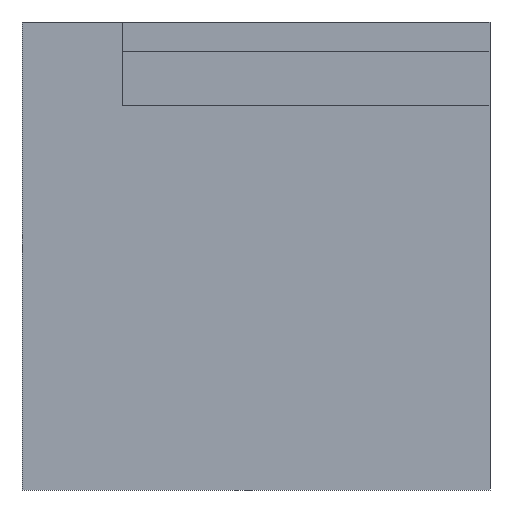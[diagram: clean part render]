
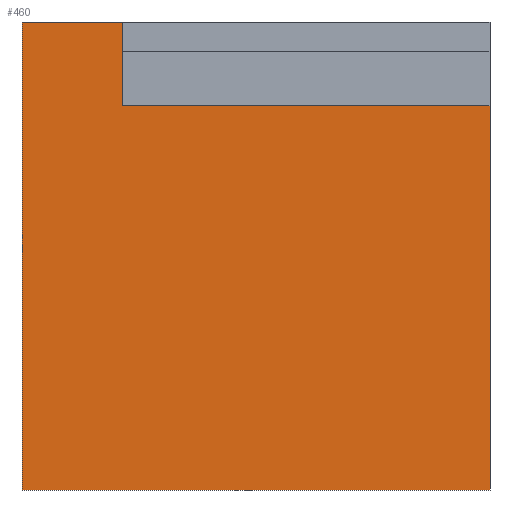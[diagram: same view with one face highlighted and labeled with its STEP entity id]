
A CAD part, front view. The second image highlights one B-rep face of the part: STEP entity #460.
In plain terms, the highlighted planar face has unit normal (0, -1, 0).
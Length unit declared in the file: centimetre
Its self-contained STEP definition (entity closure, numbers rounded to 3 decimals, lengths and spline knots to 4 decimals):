
#2 = VECTOR ( 'NONE', #405, 100. ) ;
#6 = CARTESIAN_POINT ( 'NONE',  ( 0., 0., 1000. ) ) ;
#9 = VERTEX_POINT ( 'NONE', #219 ) ;
#13 = DIRECTION ( 'NONE',  ( 0., 0., -1. ) ) ;
#16 = DIRECTION ( 'NONE',  ( 0., 0., -1. ) ) ;
#35 = CARTESIAN_POINT ( 'NONE',  ( 0., 0., 1000. ) ) ;
#59 = CARTESIAN_POINT ( 'NONE',  ( 213.6796, 0., 821.1203 ) ) ;
#67 = DIRECTION ( 'NONE',  ( 0., 1., 0. ) ) ;
#72 = LINE ( 'NONE', #144, #469 ) ;
#76 = EDGE_CURVE ( 'NONE', #176, #355, #72, .T. ) ;
#95 = CARTESIAN_POINT ( 'NONE',  ( 213.6796, 0., 1000. ) ) ;
#97 = CARTESIAN_POINT ( 'NONE',  ( 1000., 0., 1000. ) ) ;
#101 = ORIENTED_EDGE ( 'NONE', *, *, #209, .F. ) ;
#110 = DIRECTION ( 'NONE',  ( 0., 0., 1. ) ) ;
#142 = LINE ( 'NONE', #294, #274 ) ;
#144 = CARTESIAN_POINT ( 'NONE',  ( 0., 0., 1000. ) ) ;
#152 = VECTOR ( 'NONE', #16, 100. ) ;
#173 = CARTESIAN_POINT ( 'NONE',  ( 0., 0., 1000. ) ) ;
#175 = DIRECTION ( 'NONE',  ( 1., 0., 0. ) ) ;
#176 = VERTEX_POINT ( 'NONE', #6 ) ;
#187 = ORIENTED_EDGE ( 'NONE', *, *, #404, .T. ) ;
#189 = DIRECTION ( 'NONE',  ( 1., 0., 0. ) ) ;
#191 = VERTEX_POINT ( 'NONE', #290 ) ;
#208 = VERTEX_POINT ( 'NONE', #401 ) ;
#209 = EDGE_CURVE ( 'NONE', #208, #191, #435, .T. ) ;
#212 = CARTESIAN_POINT ( 'NONE',  ( 213.6796, 0., 821.1203 ) ) ;
#214 = LINE ( 'NONE', #173, #2 ) ;
#219 = CARTESIAN_POINT ( 'NONE',  ( 0., 0., 0. ) ) ;
#220 = ORIENTED_EDGE ( 'NONE', *, *, #76, .F. ) ;
#229 = ORIENTED_EDGE ( 'NONE', *, *, #359, .F. ) ;
#231 = FACE_OUTER_BOUND ( 'NONE', #265, .T. ) ;
#252 = VECTOR ( 'NONE', #175, 100. ) ;
#265 = EDGE_LOOP ( 'NONE', ( #288, #229, #220, #187, #286, #101 ) ) ;
#270 = LINE ( 'NONE', #374, #410 ) ;
#274 = VECTOR ( 'NONE', #13, 100. ) ;
#286 = ORIENTED_EDGE ( 'NONE', *, *, #456, .T. ) ;
#288 = ORIENTED_EDGE ( 'NONE', *, *, #330, .F. ) ;
#290 = CARTESIAN_POINT ( 'NONE',  ( 1000., 0., 0. ) ) ;
#292 = LINE ( 'NONE', #212, #252 ) ;
#294 = CARTESIAN_POINT ( 'NONE',  ( 213.6796, 0., 821.1203 ) ) ;
#299 = DIRECTION ( 'NONE',  ( 1., 0., 0. ) ) ;
#330 = EDGE_CURVE ( 'NONE', #402, #208, #292, .T. ) ;
#355 = VERTEX_POINT ( 'NONE', #95 ) ;
#359 = EDGE_CURVE ( 'NONE', #355, #402, #142, .T. ) ;
#374 = CARTESIAN_POINT ( 'NONE',  ( 0., 0., 0. ) ) ;
#382 = PLANE ( 'NONE',  #417 ) ;
#401 = CARTESIAN_POINT ( 'NONE',  ( 1000., 0., 821.1203 ) ) ;
#402 = VERTEX_POINT ( 'NONE', #59 ) ;
#404 = EDGE_CURVE ( 'NONE', #176, #9, #214, .T. ) ;
#405 = DIRECTION ( 'NONE',  ( 0., 0., -1. ) ) ;
#410 = VECTOR ( 'NONE', #189, 100. ) ;
#417 = AXIS2_PLACEMENT_3D ( 'NONE', #35, #67, #110 ) ;
#435 = LINE ( 'NONE', #97, #152 ) ;
#456 = EDGE_CURVE ( 'NONE', #9, #191, #270, .T. ) ;
#460 = ADVANCED_FACE ( 'NONE', ( #231 ), #382, .F. ) ;
#469 = VECTOR ( 'NONE', #299, 100. ) ;
